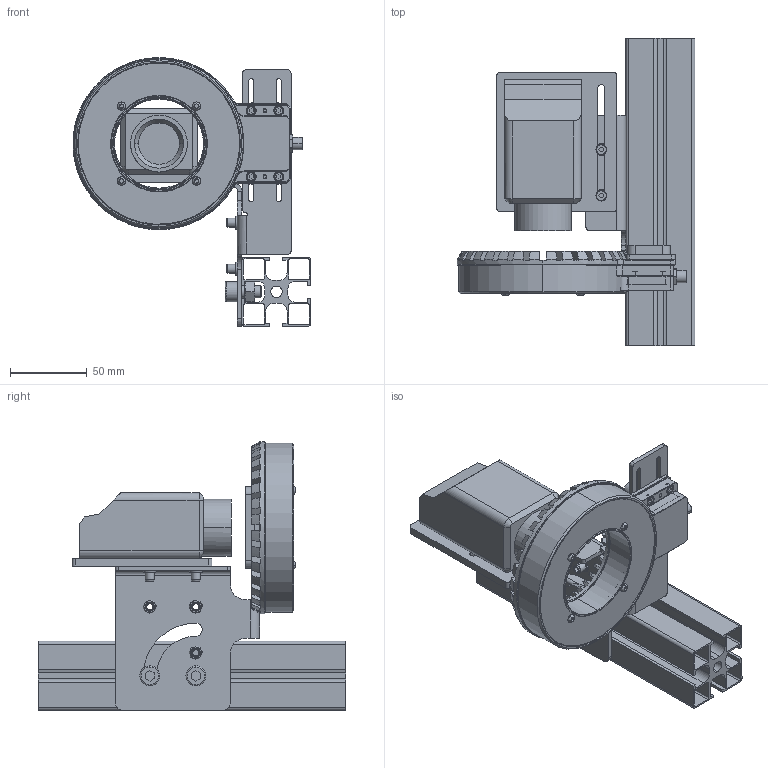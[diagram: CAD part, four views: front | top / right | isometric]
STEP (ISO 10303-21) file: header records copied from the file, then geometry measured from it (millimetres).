
FILE_DESCRIPTION (( 'STEP AP214' ), '1' );
FILE_NAME ('TPLMOUNT-HPRING-V1.STEP', '2016-05-24T07:05:21', ( 'Ludovic' ), ( '' ), 'SwSTEP 2.0', 'SolidWorks 2014', '' );
FILE_SCHEMA (( 'AUTOMOTIVE_DESIGN' ));
Length unit declared in the file: millimetre
Products named in the file (23): Vis FHC M3-10; VIS CHB M3X8; Vis CHC M3x12_Vis CHC M 3-10; LL10-7-17-916-LUXEON; K2; EC-03-030-009-PIE-DEV; connecteur male M8; EC-03-030-005-PIE-DEV; EC-03-030-004-PIE-DEV; EC-03-030-003-PIE-DEV; ECROU_HU_DIN934_ECROU_HU_M08_A2; 016517; Cam-0; 016515_D‚faut<Brut d''usinage>; Vis CHC_Vis CHC M 4-12; Vis CHC_Vis CHC M 3-16; TPLMOUNT-HPRING-V1; 016516_D‚faut<Brut d''usinage>; Vis CHC_Vis CHC M 8-16; 45x45 rainuré; EC-03-030-001-ASS-DEV; Ecrou pour connecteur M8; EC-03-030-010
Assembly tree (57 placements, depth 3):
  TPLMOUNT-HPRING-V1
    016515_D‚faut<Brut d''usinage>
    016517
    EC-03-030-001-ASS-DEV
      EC-03-030-003-PIE-DEV
      EC-03-030-004-PIE-DEV
      EC-03-030-005-PIE-DEV
      connecteur male M8
      EC-03-030-009-PIE-DEV
      K2  x12
      LL10-7-17-916-LUXEON  x12
      Vis CHC M3x12_Vis CHC M 3-10  x4
      VIS CHB M3X8  x4
      Vis FHC M3-10  x2
      EC-03-030-010
      Ecrou pour connecteur M8
    45x45 rainuré
    Vis CHC_Vis CHC M 8-16  x2
    016516_D‚faut<Brut d''usinage>
    Vis CHC_Vis CHC M 3-16  x4
    Vis CHC_Vis CHC M 4-12  x2
    Cam-0
    ECROU_HU_DIN934_ECROU_HU_M08_A2  x2
Bounding box: 155 x 200 x 175 mm (x, y, z)
Volume: 506049.2 mm3; surface area: 310318.4 mm2
Topology: 61 solids, 61 shells, 2582 faces, 6659 edges, 4315 vertices
Faces by surface type: plane 1345, cylinder 889, cone 263, torus 49, sphere 30, bspline 6
Entity records: 44714 total; most frequent: CARTESIAN_POINT 7929, DIRECTION 7620, ORIENTED_EDGE 6972, EDGE_CURVE 3486, AXIS2_PLACEMENT_3D 2915, VERTEX_POINT 2247, VECTOR 1790, LINE 1790
